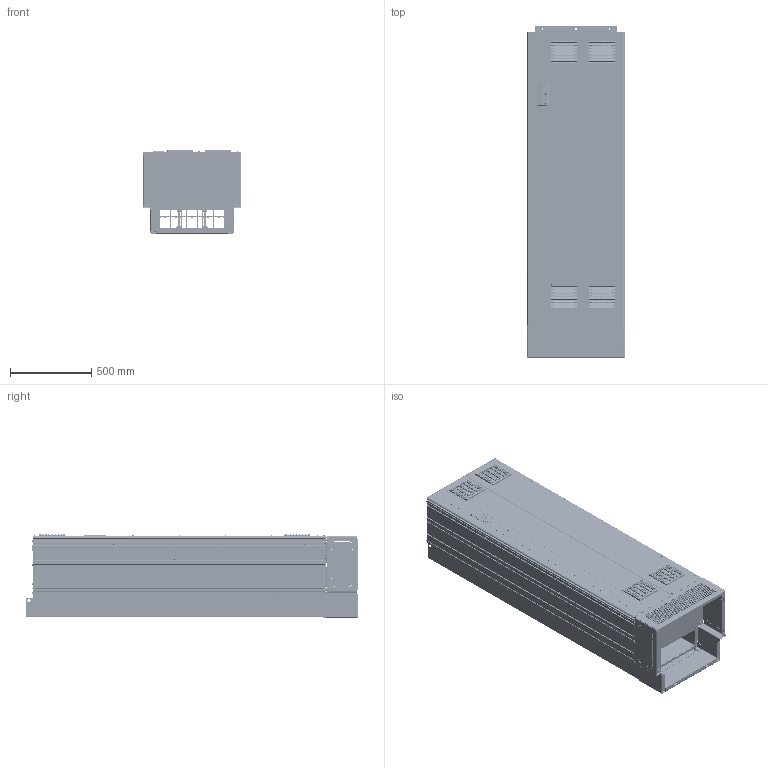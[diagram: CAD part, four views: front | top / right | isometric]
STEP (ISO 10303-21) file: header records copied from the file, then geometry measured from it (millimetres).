
FILE_DESCRIPTION((''),'2;1');
FILE_NAME('SHELL_E1H_ASM','2017-01-19T',('usdd0647'),('Danfoss Power Electronics'),'CREO PARAMETRIC BY PTC INC, 2015480','CREO PARAMETRIC BY PTC INC, 2015480','');
FILE_SCHEMA(('CONFIG_CONTROL_DESIGN','GEOMETRIC_VALIDATION_PROPERTIES_MIM'));
Products named in the file (168): 177G8943; FH-M6-15-ZI; SS-M5-2-ZI; S-M6-2-ZI; FH-M5-12-ZI; TPS-5MM-12; 177G8943_ASM; 177G9017; 177G9017_ASM; 177G8997; 177G8997_ASM; 26513; 177G9156; FH-M5-18-ZI; 177G9156_ASM; 177G4513; 175A5393; 26514; P4001_E1E3_ENCL_BACKCHANNEL_ASM; 177G8959; HFH-M10-25-ZI; FH-M8-20-ZI; 177G8959_ASM; 177G8975_AF3; 177G8975_AF0_ASM; 177G8970_AF0; 177G8970_AF2_ASM; 177G8969_AF0; 177G8969_AF2_ASM; 681X9143; 177G9001_AF5; 177G9001_AF1_ASM; 177G8993; SP-M5-2; 177G8993_ASM; 177G9378; 177G9378_ASM; 177G9235; 177G9235_ASM; 26516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
Assembly tree (593 placements, depth 6):
  SHELL_E1H_ASM
    P4001_E1E3_ASM
      P4001_E1E3_ENCL_BACKCHANNEL_ASM
        177G8943_ASM
          177G8943
          FH-M6-15-ZI  x4
          SS-M5-2-ZI  x32
          S-M6-2-ZI  x12
          FH-M5-12-ZI  x19
          TPS-5MM-12  x6
        177G9017_ASM  x2
          177G9017
        177G8997_ASM  x2
          177G8997
          SS-M5-2-ZI
        26513  x19
        177G9156_ASM
          177G9156
          FH-M5-18-ZI  x4
        177G4513  x4
        175A5393
        26514  x4
      P4001_E1E3_ENCL_MIDPLATE_ASM
        177G8959_ASM
          177G8959
          HFH-M10-25-ZI  x6
          FH-M8-20-ZI  x12
          FH-M5-12-ZI  x21
          FH-M6-15-ZI  x4
        177G8975_AF0_ASM
          177G8975_AF3
        177G8970_AF2_ASM
          177G8970_AF0
        177G8969_AF2_ASM
          177G8969_AF0
        681X9143  x23
        177G9001_AF1_ASM
          177G9001_AF5
        177G8993_ASM
          177G8993
          SP-M5-2  x2
        26513  x7
        177G9378_ASM
          177G9378
          FH-M5-12-ZI
        177G9235_ASM
          177G9235
        26516  x6
        177G9028_ASM
          177G9028
          SS-M5-2-ZI  x4
        26514  x4
        177G9030_ASM
          177G9030
        27629
        27630  x5
        177A0167_ASM
          177A0167
        177A0168_ASM
          177A0168
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Bounding box: 603 x 2042.6 x 514.05 mm (x, y, z)
Volume: 22036537.4 mm3; surface area: 17501037.1 mm2
Topology: 600 solids, 722 shells, 39457 faces, 105110 edges, 67393 vertices
Faces by surface type: plane 23407, cylinder 9063, bspline 3489, cone 1810, torus 1570, sphere 72, revolution 24, extrusion 22
Entity records: 864647 total; most frequent: CARTESIAN_POINT 195099, ORIENTED_EDGE 109382, DIRECTION 101410, EDGE_CURVE 55178, PRESENTATION_STYLE_ASSIGNMENT 41463, STYLED_ITEM 39582, VECTOR 38142, LINE 38120
